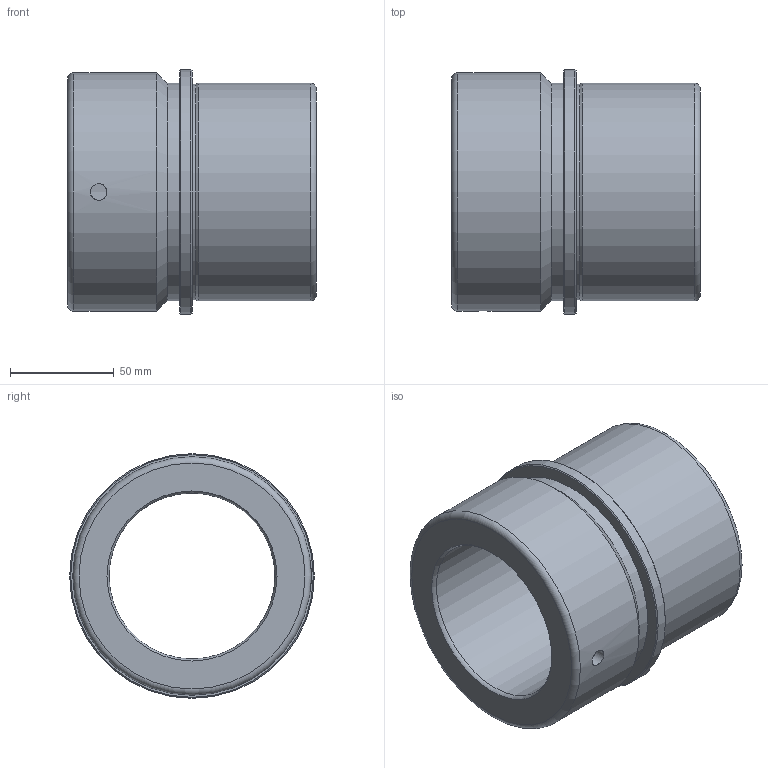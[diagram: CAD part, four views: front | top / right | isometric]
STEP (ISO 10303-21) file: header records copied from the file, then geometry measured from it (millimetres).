
FILE_DESCRIPTION(/* description */ ('Impex Ready, www.impex-ready.pl'),/* implementation_level */ '2;1');
FILE_NAME(/* name */ 'C:\Users\VIKKY\Nextcloud\SM\projekt 10 - części na stronę internetową\Pliki_3D_new\273 Tuleje BEBA\273_BEBA_STEP\BEBA80-4.ipt.step',/* time_stamp */ '2022-01-19T05:45:02+01:00',/* author */ ('SM'),/* organization */ (''),/* preprocessor_version */ 'ST-DEVELOPER v18.1',/* originating_system */ 'Autodesk Inventor 2021',/* authorisation */ '');
FILE_SCHEMA (('AUTOMOTIVE_DESIGN { 1 0 10303 214 3 1 1 }'));
Length unit declared in the file: millimetre
Products named in the file (1): BEBA80-4
Bounding box: 120 x 118 x 118 mm (x, y, z)
Volume: 525078.1 mm3; surface area: 146471.9 mm2
Topology: 2 solids, 2 shells, 22 faces, 54 edges, 32 vertices
Faces by surface type: cylinder 10, torus 4, plane 4, cone 4
Full cylindrical faces by diameter (mm): 8 x2, 80 x1, 82 x2, 104 x1, 105 x2, 115 x1, 118 x1
Entity records: 882 total; most frequent: CARTESIAN_POINT 249, DIRECTION 116, ORIENTED_EDGE 108, EDGE_CURVE 54, AXIS2_PLACEMENT_3D 49, VERTEX_POINT 32, CIRCLE 26, EDGE_LOOP 26
